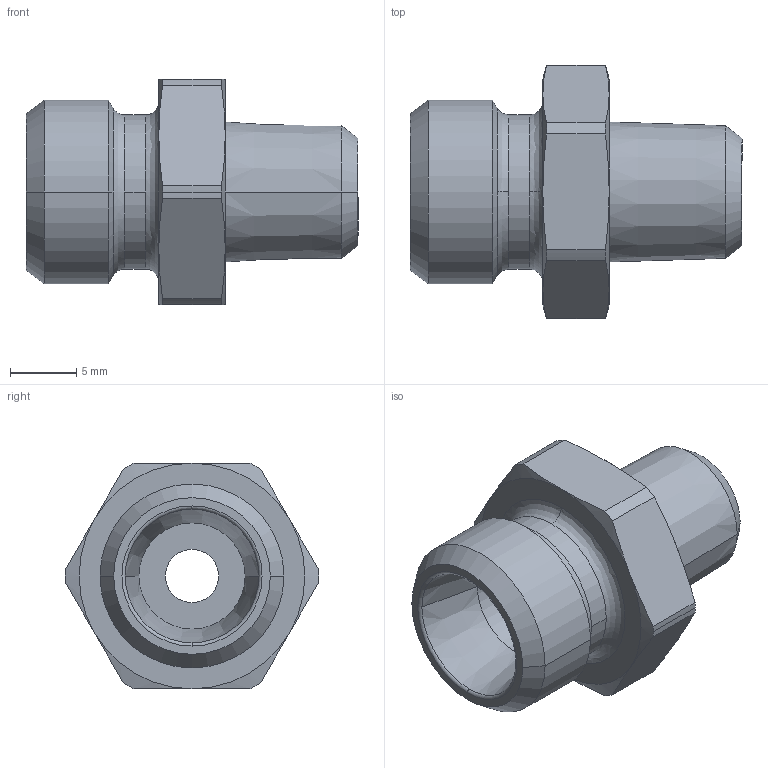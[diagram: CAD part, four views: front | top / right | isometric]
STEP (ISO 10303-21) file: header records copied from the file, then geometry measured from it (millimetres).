
FILE_DESCRIPTION((''),'2;1');
FILE_NAME('101825.stp','2007-10-30T16:13:48',(''),(''),'AutoCAD STEP 2000i','AutoCAD 2000i',', , ');
FILE_SCHEMA(('CONFIG_CONTROL_DESIGN'));
Length unit declared in the file: millimetre
Products named in the file (2): 101825.0; CHIAVE SMUSSATA#0
Assembly tree (1 placements, depth 2):
  101825.0
    CHIAVE SMUSSATA#0
Bounding box: 25 x 19.1 x 17 mm (x, y, z)
Volume: 2692.7 mm3; surface area: 1859 mm2
Topology: 1 solids, 1 shells, 59 faces, 143 edges, 89 vertices
Faces by surface type: cone 24, cylinder 16, plane 11, bspline 6, torus 2
Entity records: 2079 total; most frequent: CARTESIAN_POINT 605, DIRECTION 314, ORIENTED_EDGE 286, EDGE_CURVE 143, AXIS2_PLACEMENT_3D 140, VERTEX_POINT 89, CIRCLE 85, EDGE_LOOP 64
